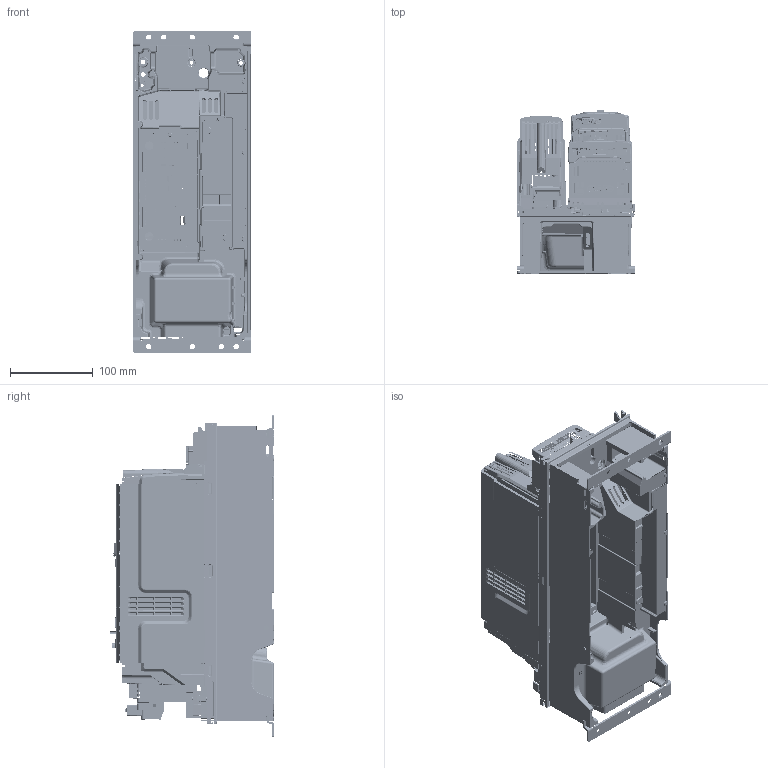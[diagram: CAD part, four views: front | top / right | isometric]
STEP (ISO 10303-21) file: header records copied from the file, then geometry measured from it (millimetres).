
FILE_DESCRIPTION((''),'2;1');
FILE_NAME('UNIM05_WITHOUT_COVERS','2013-09-06T',('KMandokar'),(''),'PRO/ENGINEER BY PARAMETRIC TECHNOLOGY CORPORATION, 2011490','PRO/ENGINEER BY PARAMETRIC TECHNOLOGY CORPORATION, 2011490','');
FILE_SCHEMA(('CONFIG_CONTROL_DESIGN'));
Products named in the file (1): UNIM05_WITHOUT_COVERS
Bounding box: 144 x 198.5 x 391 mm (x, y, z)
Surface area: 942467.6 mm2 (no closed solid volume)
Topology: 0 solids, 1504 shells, 6059 faces, 47335 edges, 42175 vertices
Faces by surface type: plane 3311, cylinder 1807, bspline 558, cone 241, torus 115, sphere 15, extrusion 12
Entity records: 502196 total; most frequent: CARTESIAN_POINT 186425, DIRECTION 54846, ORIENTED_EDGE 53954, EDGE_CURVE 47329, VERTEX_POINT 42174, VECTOR 29114, LINE 29102, AXIS2_PLACEMENT_3D 12866
